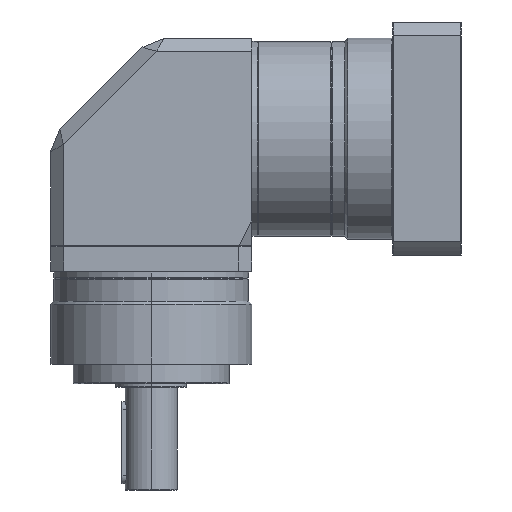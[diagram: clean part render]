
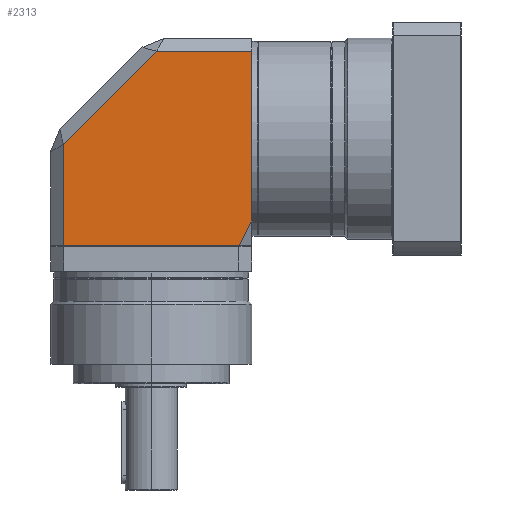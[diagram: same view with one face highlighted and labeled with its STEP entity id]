
A CAD part, left-side view. The second image highlights one B-rep face of the part: STEP entity #2313.
In plain terms, the highlighted planar face has unit normal (-1, 0, 0).
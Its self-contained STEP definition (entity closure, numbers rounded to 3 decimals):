
#146 = CARTESIAN_POINT ( 'NONE',  ( -77.5, -133.5, 223. ) ) ;
#172 = CARTESIAN_POINT ( 'NONE',  ( -77.5, 0., 241. ) ) ;
#195 = DIRECTION ( 'NONE',  ( 0., 0.707, -0.707 ) ) ;
#401 = EDGE_CURVE ( 'NONE', #1161, #4422, #840, .T. ) ;
#483 = VECTOR ( 'NONE', #1371, 1000. ) ;
#693 = DIRECTION ( 'NONE',  ( 0., 0.447, -0.894 ) ) ;
#840 = LINE ( 'NONE', #2726, #1154 ) ;
#962 = CARTESIAN_POINT ( 'NONE',  ( -77.5, -4.142, 241. ) ) ;
#983 = LINE ( 'NONE', #172, #4046 ) ;
#1154 = VECTOR ( 'NONE', #5463, 1000. ) ;
#1161 = VERTEX_POINT ( 'NONE', #2882 ) ;
#1190 = CARTESIAN_POINT ( 'NONE',  ( -77.5, -67.75, 91.5 ) ) ;
#1263 = ORIENTED_EDGE ( 'NONE', *, *, #401, .T. ) ;
#1371 = DIRECTION ( 'NONE',  ( 0., 0., -1. ) ) ;
#1572 = LINE ( 'NONE', #3455, #2978 ) ;
#1800 = LINE ( 'NONE', #4426, #2791 ) ;
#2205 = EDGE_CURVE ( 'NONE', #6563, #4422, #2647, .T. ) ;
#2313 = ADVANCED_FACE ( 'NONE', ( #6533 ), #6695, .F. ) ;
#2404 = ORIENTED_EDGE ( 'NONE', *, *, #5022, .T. ) ;
#2438 = DIRECTION ( 'NONE',  ( 1., 0., 0. ) ) ;
#2647 = LINE ( 'NONE', #146, #6718 ) ;
#2726 = CARTESIAN_POINT ( 'NONE',  ( -77.5, -77.5, 91.5 ) ) ;
#2791 = VECTOR ( 'NONE', #3295, 1000. ) ;
#2882 = CARTESIAN_POINT ( 'NONE',  ( -77.5, 67.5, 91.5 ) ) ;
#2923 = VERTEX_POINT ( 'NONE', #4657 ) ;
#2978 = VECTOR ( 'NONE', #195, 1000. ) ;
#3050 = EDGE_CURVE ( 'NONE', #3522, #6563, #1800, .T. ) ;
#3295 = DIRECTION ( 'NONE',  ( 0., 0., -1. ) ) ;
#3299 = EDGE_CURVE ( 'NONE', #2923, #1161, #5790, .T. ) ;
#3432 = ORIENTED_EDGE ( 'NONE', *, *, #3050, .F. ) ;
#3455 = CARTESIAN_POINT ( 'NONE',  ( -77.5, 70.429, 166.429 ) ) ;
#3522 = VERTEX_POINT ( 'NONE', #6015 ) ;
#3586 = EDGE_LOOP ( 'NONE', ( #5501, #1263, #5519, #3432, #5637, #2404 ) ) ;
#3751 = VERTEX_POINT ( 'NONE', #962 ) ;
#4046 = VECTOR ( 'NONE', #4958, 1000. ) ;
#4422 = VERTEX_POINT ( 'NONE', #1190 ) ;
#4426 = CARTESIAN_POINT ( 'NONE',  ( -77.5, -77.5, 251. ) ) ;
#4657 = CARTESIAN_POINT ( 'NONE',  ( -77.5, 67.5, 169.358 ) ) ;
#4958 = DIRECTION ( 'NONE',  ( 0., 1., 0. ) ) ;
#5022 = EDGE_CURVE ( 'NONE', #3751, #2923, #1572, .T. ) ;
#5106 = CARTESIAN_POINT ( 'NONE',  ( -77.5, 67.5, 251. ) ) ;
#5463 = DIRECTION ( 'NONE',  ( 0., -1., 0. ) ) ;
#5501 = ORIENTED_EDGE ( 'NONE', *, *, #3299, .T. ) ;
#5519 = ORIENTED_EDGE ( 'NONE', *, *, #2205, .F. ) ;
#5637 = ORIENTED_EDGE ( 'NONE', *, *, #6518, .T. ) ;
#5661 = AXIS2_PLACEMENT_3D ( 'NONE', #6643, #2438, #6145 ) ;
#5790 = LINE ( 'NONE', #5106, #483 ) ;
#6015 = CARTESIAN_POINT ( 'NONE',  ( -77.5, -77.5, 241. ) ) ;
#6145 = DIRECTION ( 'NONE',  ( 0., 0., -1. ) ) ;
#6455 = CARTESIAN_POINT ( 'NONE',  ( -77.5, -77.5, 111. ) ) ;
#6518 = EDGE_CURVE ( 'NONE', #3522, #3751, #983, .T. ) ;
#6533 = FACE_OUTER_BOUND ( 'NONE', #3586, .T. ) ;
#6563 = VERTEX_POINT ( 'NONE', #6455 ) ;
#6643 = CARTESIAN_POINT ( 'NONE',  ( -77.5, -77.5, 251. ) ) ;
#6695 = PLANE ( 'NONE',  #5661 ) ;
#6718 = VECTOR ( 'NONE', #693, 1000. ) ;
